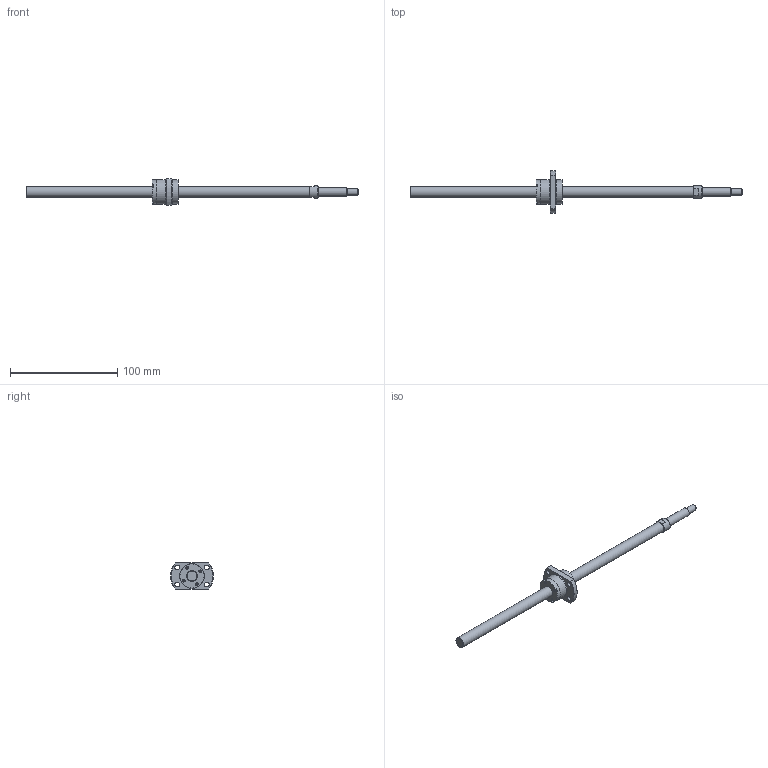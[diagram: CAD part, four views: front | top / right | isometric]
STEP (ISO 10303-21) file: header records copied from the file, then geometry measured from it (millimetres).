
FILE_DESCRIPTION(/* description */ ('STEP AP214'),/* implementation_level */ '2;1');
FILE_NAME(/* name */ 'SG1010-260R310C5A0X(118)',/* time_stamp */ '2026-07-24T15:17:18+02:00',/* author */ ('License CC BY-ND 4.0'),/* organization */ ('CADENAS'),/* preprocessor_version */ 'ST-DEVELOPER v20',/* originating_system */ 'PARTsolutions',/* authorisation */ ' ');
FILE_SCHEMA (('AUTOMOTIVE_DESIGN {1 0 10303 214 3 1 1}'));
Length unit declared in the file: millimetre
Products named in the file (3): SG1010-260R310C5A0X(118); SG1010-260R310C5A_shaft; SG1010 C5_nut
Assembly tree (2 placements, depth 2):
  SG1010-260R310C5A0X(118)
    SG1010-260R310C5A_shaft
    SG1010 C5_nut
Bounding box: 310 x 40 x 25 mm (x, y, z)
Volume: 33365.2 mm3; surface area: 14288.3 mm2
Topology: 2 solids, 2 shells, 100 faces, 231 edges, 150 vertices
Faces by surface type: plane 63, cylinder 24, cone 12, torus 1
Full cylindrical faces by diameter (mm): 2.25 x2, 2.5 x2, 4.5 x4, 6 x1, 8 x1, 10 x2, 11.5 x1, 22.5 x3, 23 x2
Entity records: 2781 total; most frequent: CARTESIAN_POINT 477, DIRECTION 472, ORIENTED_EDGE 404, EDGE_CURVE 202, AXIS2_PLACEMENT_3D 175, EDGE_LOOP 152, FACE_BOUND 152, VERTEX_POINT 148
